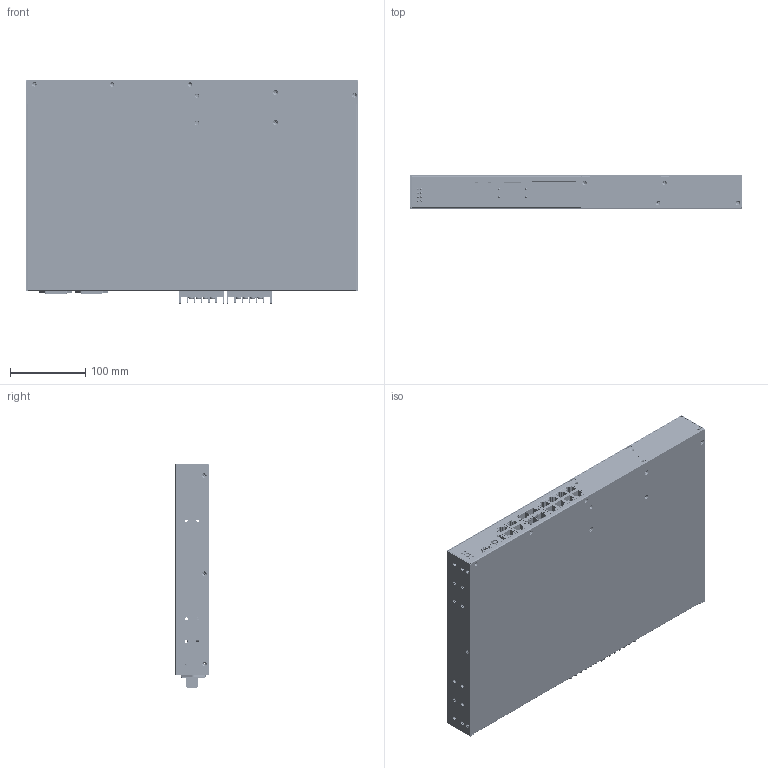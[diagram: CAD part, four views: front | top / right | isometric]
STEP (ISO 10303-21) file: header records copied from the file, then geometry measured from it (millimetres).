
FILE_DESCRIPTION((''),'2;1');
FILE_NAME('IKS-6728-8POE-4GTXSFP-HV-HV','2013-06-22T',('Vincent_Huang'),(''),'PRO/ENGINEER BY PARAMETRIC TECHNOLOGY CORPORATION, 2004320','PRO/ENGINEER BY PARAMETRIC TECHNOLOGY CORPORATION, 2004320','');
FILE_SCHEMA(('CONFIG_CONTROL_DESIGN'));
Products named in the file (1): IKS-6728-8POE-4GTXSFP-HV-HV
Bounding box: 440.2 x 44 x 296.8 mm (x, y, z)
Surface area: 1152806 mm2 (no closed solid volume)
Topology: 0 solids, 163 shells, 6668 faces, 16340 edges, 10482 vertices
Faces by surface type: plane 4143, cylinder 1841, cone 540, torus 104, bspline 32, extrusion 8
Entity records: 197170 total; most frequent: CARTESIAN_POINT 35886, DIRECTION 34242, ORIENTED_EDGE 32228, EDGE_CURVE 16224, AXIS2_PLACEMENT_3D 11646, VECTOR 10950, LINE 10942, VERTEX_POINT 10482
